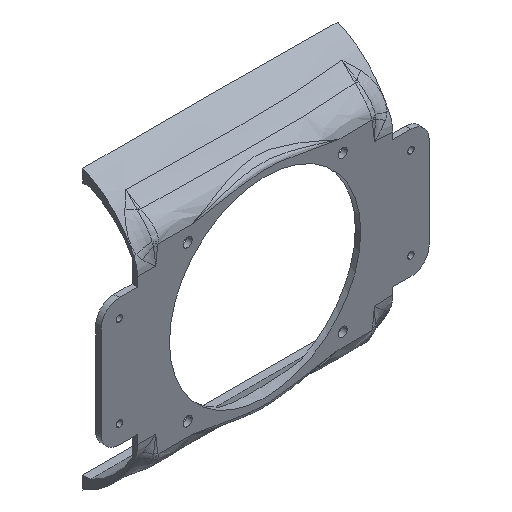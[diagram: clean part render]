
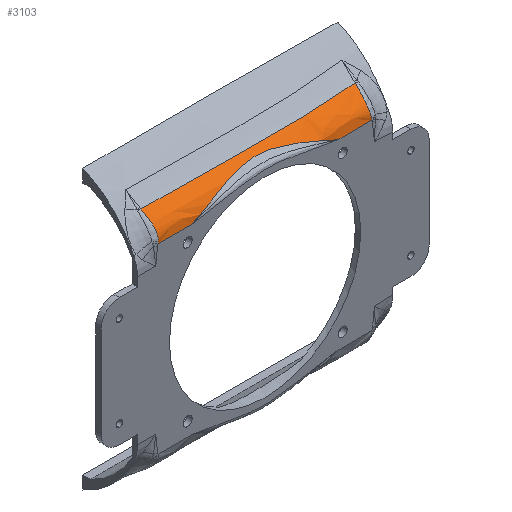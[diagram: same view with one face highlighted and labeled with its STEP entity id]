
A CAD part, isometric view. The second image highlights one B-rep face of the part: STEP entity #3103.
In plain terms, the highlighted face is a extrusion surface.
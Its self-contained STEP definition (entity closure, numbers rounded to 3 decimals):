
#82=CARTESIAN_POINT('',(0.037,-108.395,49.996));
#122=CARTESIAN_POINT('',(79.951,-108.395,50.));
#317=CARTESIAN_POINT('',(-18.732,-108.395,50.));
#906=CARTESIAN_POINT('',(99.015,-98.704,62.631));
#922=CARTESIAN_POINT('',(79.951,-108.395,50.));
#923=CARTESIAN_POINT('',(78.827,-108.395,50.533));
#924=CARTESIAN_POINT('',(76.375,-108.297,51.61));
#925=CARTESIAN_POINT('',(72.125,-107.834,53.23));
#926=CARTESIAN_POINT('',(67.179,-107.012,54.896));
#927=CARTESIAN_POINT('',(61.452,-105.813,56.561));
#928=CARTESIAN_POINT('',(55.304,-104.487,57.98));
#929=CARTESIAN_POINT('',(49.251,-103.442,58.945));
#930=CARTESIAN_POINT('',(43.314,-102.864,59.441));
#931=CARTESIAN_POINT('',(37.295,-102.828,59.472));
#932=CARTESIAN_POINT('',(30.939,-103.399,58.984));
#933=CARTESIAN_POINT('',(24.309,-104.562,57.911));
#934=CARTESIAN_POINT('',(18.222,-105.885,56.468));
#935=CARTESIAN_POINT('',(13.01,-106.968,54.947));
#936=CARTESIAN_POINT('',(8.475,-107.744,53.44));
#937=CARTESIAN_POINT('',(4.119,-108.262,51.812));
#938=CARTESIAN_POINT('',(1.363,-108.395,50.626));
#939=CARTESIAN_POINT('',(0.037,-108.395,49.996));
#941=DIRECTION('',(1.,0.,0.));
#942=VECTOR('',#941,18.768);
#943=CARTESIAN_POINT('',(-18.732,-108.395,50.));
#944=LINE('',#943,#942);
#945=CARTESIAN_POINT('',(-18.598,-108.356,50.824));
#946=CARTESIAN_POINT('',(-18.617,-108.368,50.689));
#947=CARTESIAN_POINT('',(-18.659,-108.388,50.418));
#948=CARTESIAN_POINT('',(-18.706,-108.395,50.14));
#949=CARTESIAN_POINT('',(-18.732,-108.395,50.));
#951=CARTESIAN_POINT('',(-19.15,-99.375,62.157));
#952=CARTESIAN_POINT('',(-19.129,-99.519,62.053));
#953=CARTESIAN_POINT('',(-19.085,-99.819,61.835));
#954=CARTESIAN_POINT('',(-19.021,-100.298,61.48));
#955=CARTESIAN_POINT('',(-18.954,-100.824,61.081));
#956=CARTESIAN_POINT('',(-18.881,-101.406,60.631));
#957=CARTESIAN_POINT('',(-18.8,-102.049,60.12));
#958=CARTESIAN_POINT('',(-18.714,-102.753,59.541));
#959=CARTESIAN_POINT('',(-18.624,-103.513,58.881));
#960=CARTESIAN_POINT('',(-18.533,-104.328,58.122));
#961=CARTESIAN_POINT('',(-18.445,-105.207,57.22));
#962=CARTESIAN_POINT('',(-18.37,-106.143,56.119));
#963=CARTESIAN_POINT('',(-18.326,-107.156,54.655));
#964=CARTESIAN_POINT('',(-18.381,-108.024,52.765));
#965=CARTESIAN_POINT('',(-18.504,-108.292,51.488));
#966=CARTESIAN_POINT('',(-18.598,-108.356,50.824));
#968=CARTESIAN_POINT('',(99.015,-98.704,62.631));
#969=CARTESIAN_POINT('',(97.322,-98.811,62.557));
#970=CARTESIAN_POINT('',(93.75,-99.022,62.409));
#971=CARTESIAN_POINT('',(87.693,-99.317,62.199));
#972=CARTESIAN_POINT('',(81.361,-99.557,62.026));
#973=CARTESIAN_POINT('',(75.251,-99.728,61.901));
#974=CARTESIAN_POINT('',(69.374,-99.84,61.819));
#975=CARTESIAN_POINT('',(63.604,-99.906,61.77));
#976=CARTESIAN_POINT('',(57.889,-99.933,61.75));
#977=CARTESIAN_POINT('',(52.179,-99.928,61.754));
#978=CARTESIAN_POINT('',(46.475,-99.897,61.777));
#979=CARTESIAN_POINT('',(40.792,-99.847,61.814));
#980=CARTESIAN_POINT('',(35.12,-99.786,61.858));
#981=CARTESIAN_POINT('',(29.46,-99.723,61.905));
#982=CARTESIAN_POINT('',(23.824,-99.665,61.947));
#983=CARTESIAN_POINT('',(18.256,-99.619,61.981));
#984=CARTESIAN_POINT('',(12.466,-99.58,62.009));
#985=CARTESIAN_POINT('',(6.492,-99.545,62.034));
#986=CARTESIAN_POINT('',(0.891,-99.515,62.056));
#987=CARTESIAN_POINT('',(-4.038,-99.487,62.076));
#988=CARTESIAN_POINT('',(-8.425,-99.46,62.096));
#989=CARTESIAN_POINT('',(-12.39,-99.432,62.116));
#990=CARTESIAN_POINT('',(-15.948,-99.404,62.136));
#991=CARTESIAN_POINT('',(-18.12,-99.385,62.15));
#992=CARTESIAN_POINT('',(-19.15,-99.375,62.157));
#994=CARTESIAN_POINT('',(98.566,-108.395,50.));
#995=CARTESIAN_POINT('',(98.456,-108.395,50.599));
#996=CARTESIAN_POINT('',(98.308,-108.273,51.817));
#997=CARTESIAN_POINT('',(98.183,-107.657,53.693));
#998=CARTESIAN_POINT('',(98.179,-106.638,55.478));
#999=CARTESIAN_POINT('',(98.256,-105.383,57.05));
#1000=CARTESIAN_POINT('',(98.375,-104.118,58.336));
#1001=CARTESIAN_POINT('',(98.496,-102.989,59.346));
#1002=CARTESIAN_POINT('',(98.612,-101.974,60.185));
#1003=CARTESIAN_POINT('',(98.719,-101.053,60.907));
#1004=CARTESIAN_POINT('',(98.818,-100.204,61.552));
#1005=CARTESIAN_POINT('',(98.914,-99.421,62.127));
#1006=CARTESIAN_POINT('',(98.981,-98.937,62.47));
#1007=CARTESIAN_POINT('',(99.015,-98.704,62.631));
#1009=DIRECTION('',(1.,0.,0.));
#1010=VECTOR('',#1009,18.615);
#1011=CARTESIAN_POINT('',(79.951,-108.395,50.));
#1012=LINE('',#1011,#1010);
#1900=VERTEX_POINT('',#317);
#1902=VERTEX_POINT('',#945);
#1904=VERTEX_POINT('',#951);
#1912=VERTEX_POINT('',#906);
#1914=VERTEX_POINT('',#994);
#2041=VERTEX_POINT('',#82);
#2042=VERTEX_POINT('',#122);
#3081=CARTESIAN_POINT('',(-20.,-108.377,
49.435));
#3082=CARTESIAN_POINT('',(-20.,-108.389,
49.625));
#3083=CARTESIAN_POINT('',(-20.,-108.544,
54.561));
#3084=CARTESIAN_POINT('',(-20.,-103.659,
59.03));
#3085=CARTESIAN_POINT('',(-20.,-99.189,
62.307));
#3086=CARTESIAN_POINT('',(-20.,-98.258,
62.937));
#3088=DIRECTION('',(-1.,0.,0.));
#3089=VECTOR('',#3088,1.);
#3090=SURFACE_OF_LINEAR_EXTRUSION('',#3087,#3089);
#3092=ORIENTED_EDGE('',*,*,#3091,.T.);
#3093=ORIENTED_EDGE('',*,*,#2116,.F.);
#3095=ORIENTED_EDGE('',*,*,#3094,.F.);
#3096=ORIENTED_EDGE('',*,*,#3071,.F.);
#3097=ORIENTED_EDGE('',*,*,#2963,.F.);
#3099=ORIENTED_EDGE('',*,*,#3098,.F.);
#3100=ORIENTED_EDGE('',*,*,#2052,.F.);
#3101=EDGE_LOOP('',(#3092,#3093,#3095,#3096,#3097,#3099,#3100));
#3102=FACE_OUTER_BOUND('',#3101,.F.);
#3103=ADVANCED_FACE('',(#3102),#3090,.T.);
#940=B_SPLINE_CURVE_WITH_KNOTS('',3,(#922,#923,#924,#925,#926,#927,#928,#929,
#930,#931,#932,#933,#934,#935,#936,#937,#938,#939),.UNSPECIFIED.,.F.,.F.,(4,1,1,
1,1,1,1,1,1,1,1,1,1,1,1,4),(0.,0.067,0.133,0.2,
0.267,0.333,0.4,0.467,0.533,
0.6,0.667,0.733,0.8,0.867,
0.933,1.),.UNSPECIFIED.);
#950=B_SPLINE_CURVE_WITH_KNOTS('',3,(#945,#946,#947,#948,#949),.UNSPECIFIED.,
.F.,.F.,(4,1,4),(0.,0.5,1.),.UNSPECIFIED.);
#967=B_SPLINE_CURVE_WITH_KNOTS('',3,(#951,#952,#953,#954,#955,#956,#957,#958,
#959,#960,#961,#962,#963,#964,#965,#966),.UNSPECIFIED.,.F.,.F.,(4,1,1,1,1,1,1,1,
1,1,1,1,1,4),(0.,0.077,0.154,0.231,
0.308,0.385,0.462,0.538,
0.615,0.692,0.769,0.846,
0.923,1.),.UNSPECIFIED.);
#993=B_SPLINE_CURVE_WITH_KNOTS('',3,(#968,#969,#970,#971,#972,#973,#974,#975,
#976,#977,#978,#979,#980,#981,#982,#983,#984,#985,#986,#987,#988,#989,#990,#991,
#992),.UNSPECIFIED.,.F.,.F.,(4,1,1,1,1,1,1,1,1,1,1,1,1,1,1,1,1,1,1,1,1,1,4),(
0.,0.045,0.091,0.136,0.182,
0.227,0.273,0.318,0.364,
0.409,0.455,0.5,0.545,0.591,
0.636,0.682,0.727,0.773,
0.818,0.864,0.909,0.955,1.),
.UNSPECIFIED.);
#1008=B_SPLINE_CURVE_WITH_KNOTS('',3,(#994,#995,#996,#997,#998,#999,#1000,#1001,
#1002,#1003,#1004,#1005,#1006,#1007),.UNSPECIFIED.,.F.,.F.,(4,1,1,1,1,1,1,1,1,1,
1,4),(0.,0.091,0.182,0.273,
0.364,0.455,0.545,0.636,
0.727,0.818,0.909,1.),.UNSPECIFIED.);
#2052=EDGE_CURVE('',#2042,#1914,#1012,.T.);
#2116=EDGE_CURVE('',#1900,#2041,#944,.T.);
#2963=EDGE_CURVE('',#1912,#1904,#993,.T.);
#3071=EDGE_CURVE('',#1904,#1902,#967,.T.);
#3087=B_SPLINE_CURVE_WITH_KNOTS('',3,(#3081,#3082,#3083,#3084,#3085,#3086),
.UNSPECIFIED.,.F.,.F.,(4,1,1,4),(0.,0.031,0.801,1.),
.UNSPECIFIED.);
#3091=EDGE_CURVE('',#2042,#2041,#940,.T.);
#3094=EDGE_CURVE('',#1902,#1900,#950,.T.);
#3098=EDGE_CURVE('',#1914,#1912,#1008,.T.);
